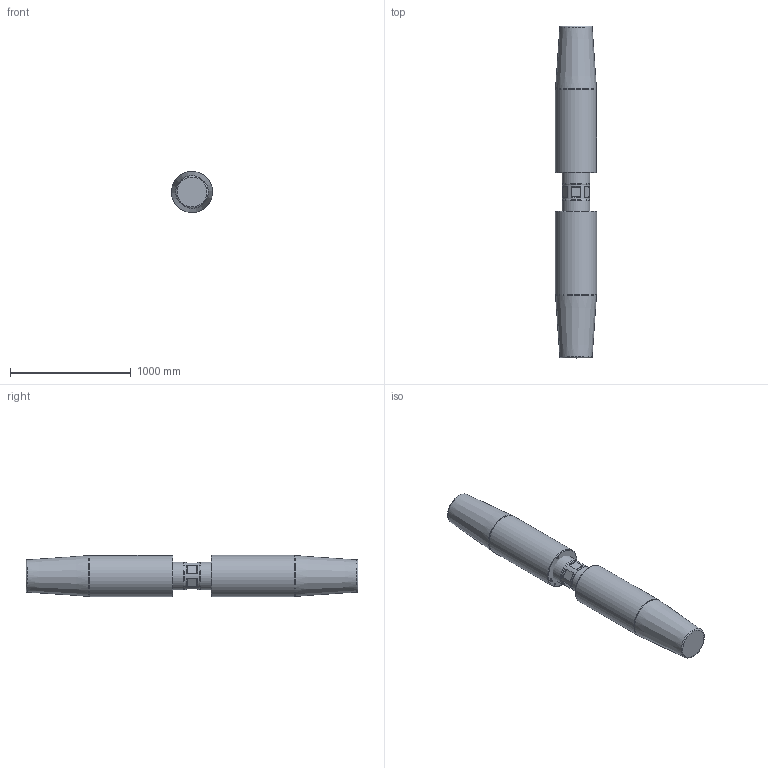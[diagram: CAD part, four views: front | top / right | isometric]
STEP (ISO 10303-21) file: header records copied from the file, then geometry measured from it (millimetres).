
FILE_DESCRIPTION(/* description */ (''),/* implementation_level */ '2;1');
FILE_NAME(/* name */ 'D:\Clienti\Redaelli (inventor)\CYA\STEP\Arrangement\CYA116 52 061 2.stp',/* time_stamp */ '2021-05-09T10:38:35+02:00',/* author */ ('fabri'),/* organization */ (''),/* preprocessor_version */ 'ST-DEVELOPER v16.13',/* originating_system */ 'Autodesk Inventor 2018',/* authorisation */ '');
FILE_SCHEMA (('AUTOMOTIVE_DESIGN { 1 0 10303 214 3 1 1 }'));
Length unit declared in the file: millimetre
Products named in the file (4): CYA012-54-062-0; TBF012-12-012-1; TBF012-13-012-0; TBF012-13-012-0_1
Assembly tree (3 placements, depth 2):
  CYA012-54-062-0
    TBF012-12-012-1
    TBF012-13-012-0
    TBF012-13-012-0_1
Bounding box: 339.78 x 2748 x 339.78 mm (x, y, z)
Volume: 250140081.3 mm3; surface area: 3714057.9 mm2
Topology: 3 solids, 3 shells, 490 faces, 1317 edges, 876 vertices
Faces by surface type: plane 228, bspline 219, cylinder 25, cone 14, torus 4
Full cylindrical faces by diameter (mm): 17.294 x8, 224 x1, 230 x2, 340 x2
Entity records: 16699 total; most frequent: CARTESIAN_POINT 5976, ORIENTED_EDGE 2556, DIRECTION 1414, EDGE_CURVE 1278, VERTEX_POINT 868, LINE 778, VECTOR 778, EDGE_LOOP 564
